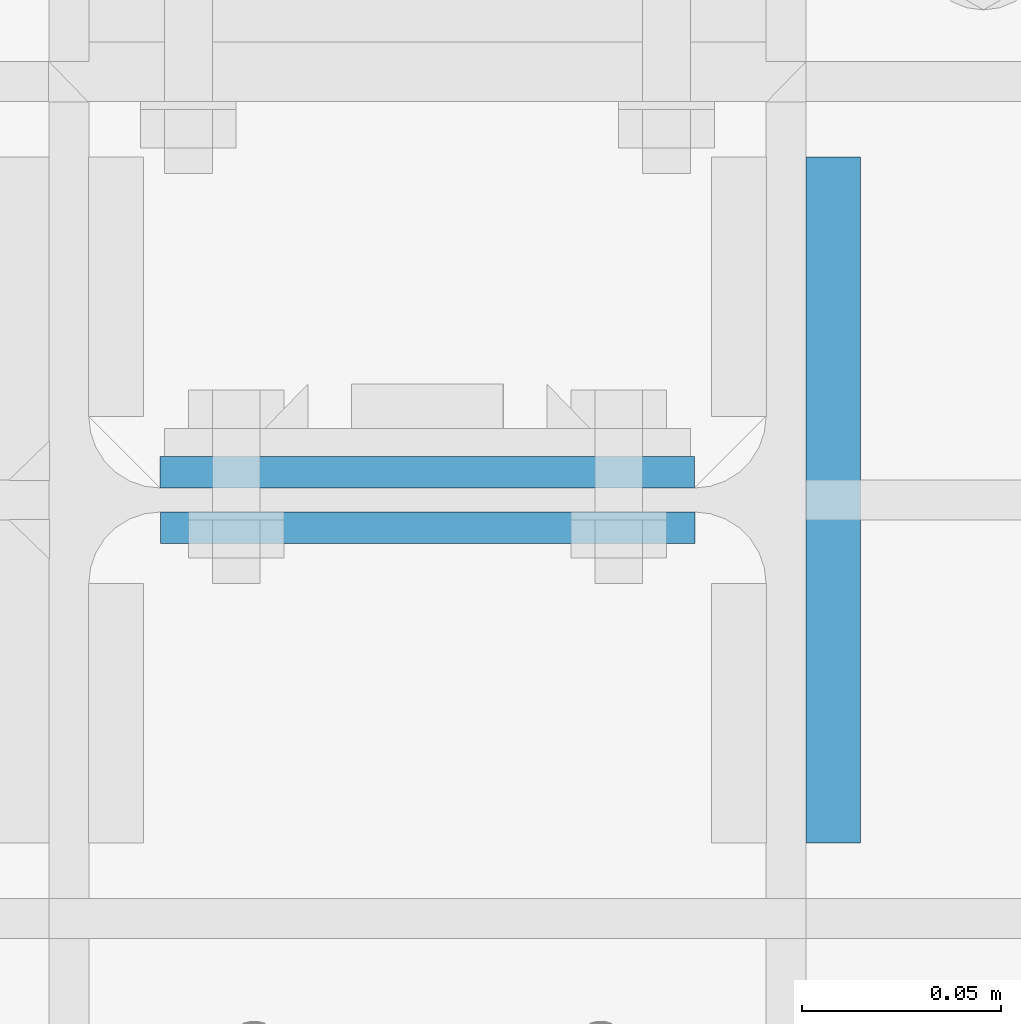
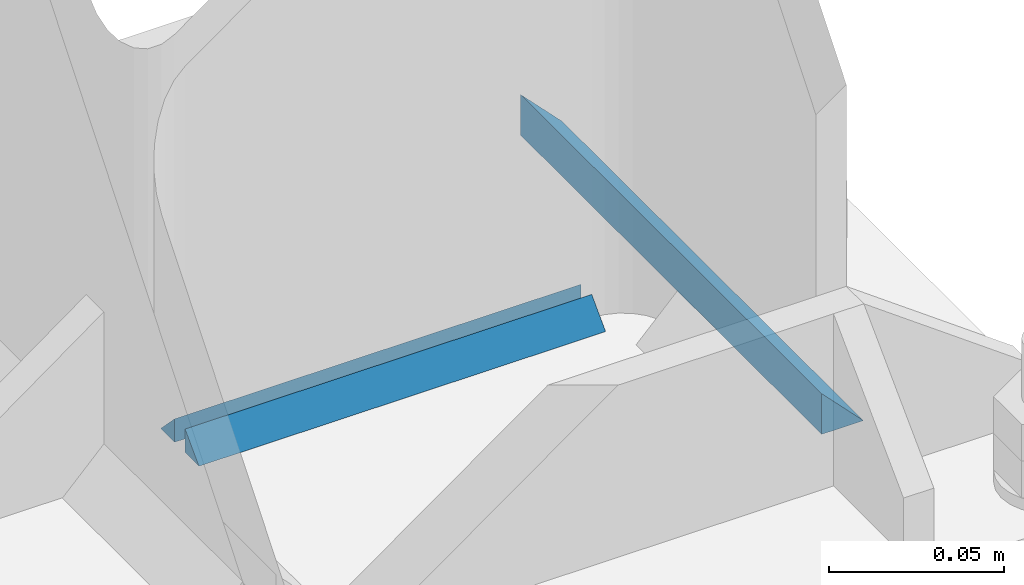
# One storey, part 28 of 251: 6 fasteners.
"""IFC4 building model written with IfcOpenShell, lengths in metres."""

from ifc_helpers import new_model, si_unit, frame, origin_with_axes, place, context, project, spatial, polyline, outline, extrude, type_object, element, save


model = new_model("IFC4")

# Units and contexts
model_context = context("Model", 3, precision=1e-05, world=origin_with_axes())
ifc_project = project(units=[si_unit("LENGTHUNIT", "METRE"), si_unit("AREAUNIT", "SQUARE_METRE"), si_unit("VOLUMEUNIT", "CUBIC_METRE"), si_unit("MASSUNIT", "GRAM", prefix="KILO"), si_unit("TIMEUNIT", "SECOND"), si_unit("PLANEANGLEUNIT", "RADIAN"), si_unit("SOLIDANGLEUNIT", "STERADIAN"), si_unit("THERMODYNAMICTEMPERATUREUNIT", "DEGREE_CELSIUS")], contexts=[model_context])

# Site, building, storey
placement_1 = place(None, origin_with_axes())
site = spatial("IfcSite", under=ifc_project, at=placement_1, Name="Italia", CompositionType="ELEMENT")
building = spatial("IfcBuilding", under=site, at=placement_1, Name="Deposito", CompositionType="ELEMENT")
storey = spatial("IfcBuildingStorey", under=building, at=placement_1, Name="Storey 0", CompositionType="ELEMENT", Elevation=0.0)

# Fasteners
fastener_type_1 = type_object("IfcFastenerType", Name="Collegamenti 0014_-001 0016_-054 0018_-056 0032_-002 0033_-058 0047_-003 0048_-060 0062_-004 0063_-005 0079_-008", PredefinedType="WELD")
placement_2 = place(placement_1, origin_with_axes())
fastener_1_placement = place(placement_2, origin_with_axes())
element("IfcFastener", 1, at=fastener_1_placement, inside=storey, type_object=fastener_type_1, Name="Collegamenti 0014_-001 0016_-054 0018_-056 0032_-002 0033_-058 0047_-003 0048_-060 0062_-004 0063_-005 0079_-008", context=model_context, shape_type="SweptSolid", body=[
    extrude(outline(polyline([(0.0, 0.0), (0.0137482, 0.0141734), (0.0137482, 0.0), (0.0, 0.0)])), frame((20.1087, -0.08605, 0.07495), z_axis=(0.0, 1.0, 0.0), x_axis=(-1.0, 0.0, 0.0)), (0.0, 0.0, 1.0), 0.1721),
])
fastener_type_2 = type_object("IfcFastenerType", Name="Collegamenti 0014_-001 0016_-054 0018_-056 0032_-002 0033_-058 0047_-003 0048_-060 0062_-004 0063_-005 0079_-008", PredefinedType="WELD")
fastener_2_placement = place(placement_2, origin_with_axes())
element("IfcFastener", 2, at=fastener_2_placement, inside=storey, type_object=fastener_type_2, Name="Collegamenti 0014_-001 0016_-054 0018_-056 0032_-002 0033_-058 0047_-003 0048_-060 0062_-004 0063_-005 0079_-008", context=model_context, shape_type="SweptSolid", body=[
    extrude(outline(polyline([(0.0, 0.0), (0.00792816, 0.00817336), (0.00792816, 0.0), (0.0, 0.0)])), frame((20.067, 0.0108782, 0.07495), z_axis=(-1.0, 0.0, 0.0), x_axis=(0.0, -1.0, 0.0)), (0.0, 0.0, 1.0), 0.134098),
])
fastener_type_3 = type_object("IfcFastenerType", Name="Collegamenti 0014_-001 0016_-054 0018_-056 0032_-002 0033_-058 0047_-003 0048_-060 0062_-004 0063_-005 0079_-008", PredefinedType="WELD")
fastener_3_placement = place(placement_2, origin_with_axes())
element("IfcFastener", 3, at=fastener_3_placement, inside=storey, type_object=fastener_type_3, Name="Collegamenti 0014_-001 0016_-054 0018_-056 0032_-002 0033_-058 0047_-003 0048_-060 0062_-004 0063_-005 0079_-008", context=model_context, shape_type="SweptSolid", body=[
    extrude(outline(polyline([(0.0, 0.0), (0.00792816, 0.00817336), (0.00792816, 0.0), (0.0, 0.0)])), frame((19.933, -0.0108782, 0.07495), z_axis=(1.0, 0.0, 0.0), x_axis=(0.0, 1.0, 0.0)), (0.0, 0.0, 1.0), 0.134098),
])
fastener_type_4 = type_object("IfcFastenerType", Name="Collegamenti 0014_-001 0016_-054 0018_-056 0032_-002 0033_-058 0047_-003 0048_-060 0062_-004 0063_-005 0079_-008", PredefinedType="WELD")
fastener_4_placement = place(placement_2, origin_with_axes())
element("IfcFastener", 4, at=fastener_4_placement, inside=storey, type_object=fastener_type_4, Name="Collegamenti 0014_-001 0016_-054 0018_-056 0032_-002 0033_-058 0047_-003 0048_-060 0062_-004 0063_-005 0079_-008", context=model_context, shape_type="SweptSolid", body=[
    extrude(outline(polyline([(0.0, 0.0), (0.0137482, 0.0141734), (0.0137482, 0.0), (0.0, 0.0)])), frame((20.1087, -0.08605, 0.07495), z_axis=(0.0, 1.0, 0.0), x_axis=(-1.0, 0.0, 0.0)), (0.0, 0.0, 1.0), 0.1721),
])
fastener_type_5 = type_object("IfcFastenerType", Name="Collegamenti 0014_-001 0016_-054 0018_-056 0032_-002 0033_-058 0047_-003 0048_-060 0062_-004 0063_-005 0079_-008", PredefinedType="WELD")
fastener_5_placement = place(placement_2, origin_with_axes())
element("IfcFastener", 5, at=fastener_5_placement, inside=storey, type_object=fastener_type_5, Name="Collegamenti 0014_-001 0016_-054 0018_-056 0032_-002 0033_-058 0047_-003 0048_-060 0062_-004 0063_-005 0079_-008", context=model_context, shape_type="SweptSolid", body=[
    extrude(outline(polyline([(0.0, 0.0), (0.00792816, 0.00817336), (0.00792816, 0.0), (0.0, 0.0)])), frame((20.067, 0.0108782, 0.07495), z_axis=(-1.0, 0.0, 0.0), x_axis=(0.0, -1.0, 0.0)), (0.0, 0.0, 1.0), 0.134098),
])
fastener_type_6 = type_object("IfcFastenerType", Name="Collegamenti 0014_-001 0016_-054 0018_-056 0032_-002 0033_-058 0047_-003 0048_-060 0062_-004 0063_-005 0079_-008", PredefinedType="WELD")
fastener_6_placement = place(placement_2, origin_with_axes())
element("IfcFastener", 6, at=fastener_6_placement, inside=storey, type_object=fastener_type_6, Name="Collegamenti 0014_-001 0016_-054 0018_-056 0032_-002 0033_-058 0047_-003 0048_-060 0062_-004 0063_-005 0079_-008", context=model_context, shape_type="SweptSolid", body=[
    extrude(outline(polyline([(0.0, 0.0), (0.00792816, 0.00817336), (0.00792816, 0.0), (0.0, 0.0)])), frame((19.933, -0.0108782, 0.07495), z_axis=(1.0, 0.0, 0.0), x_axis=(0.0, 1.0, 0.0)), (0.0, 0.0, 1.0), 0.134098),
])

save(model, "model.ifc")
